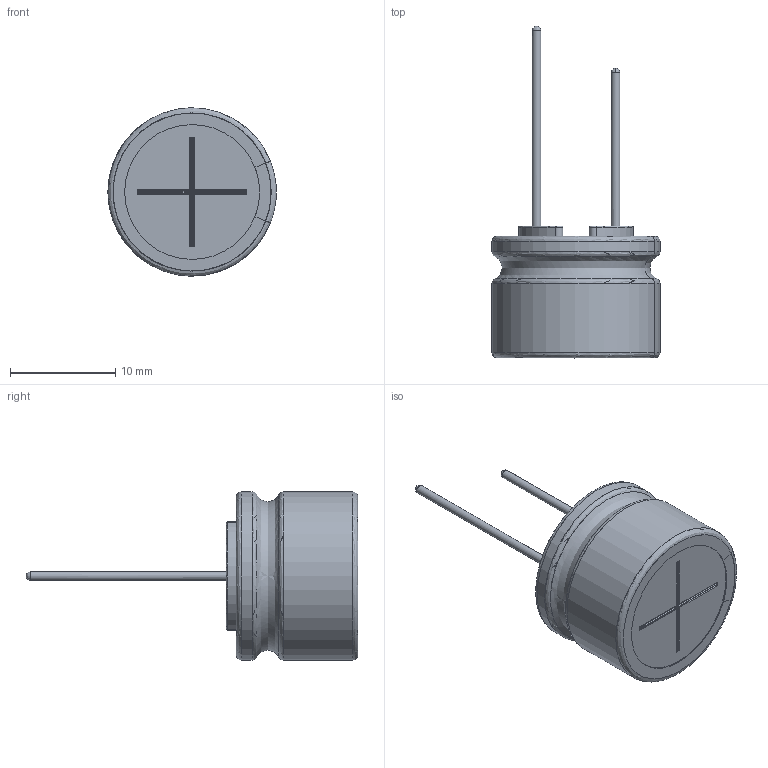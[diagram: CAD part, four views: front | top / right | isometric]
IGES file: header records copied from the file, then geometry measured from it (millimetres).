
Start section: JAMA-IS VERSION  1.0
Bounding box: 15.98 x 31.5 x 16 mm (x, y, z)
Surface area: 2573.6 mm2 (no closed solid volume)
Topology: 0 solids, 0 shells, 132 faces, 1511 edges, 1492 vertices
Faces by surface type: bspline 132
